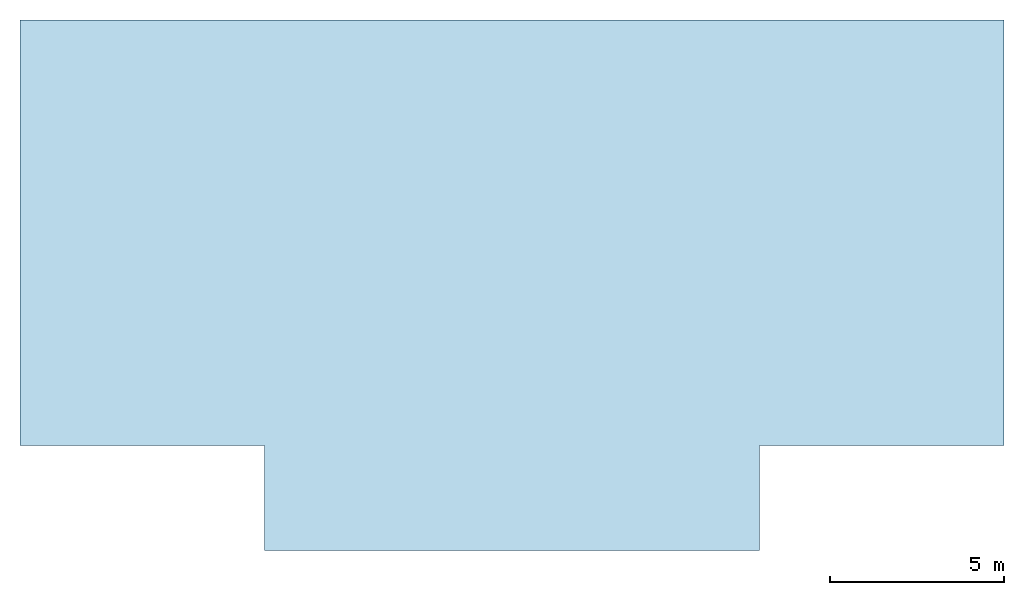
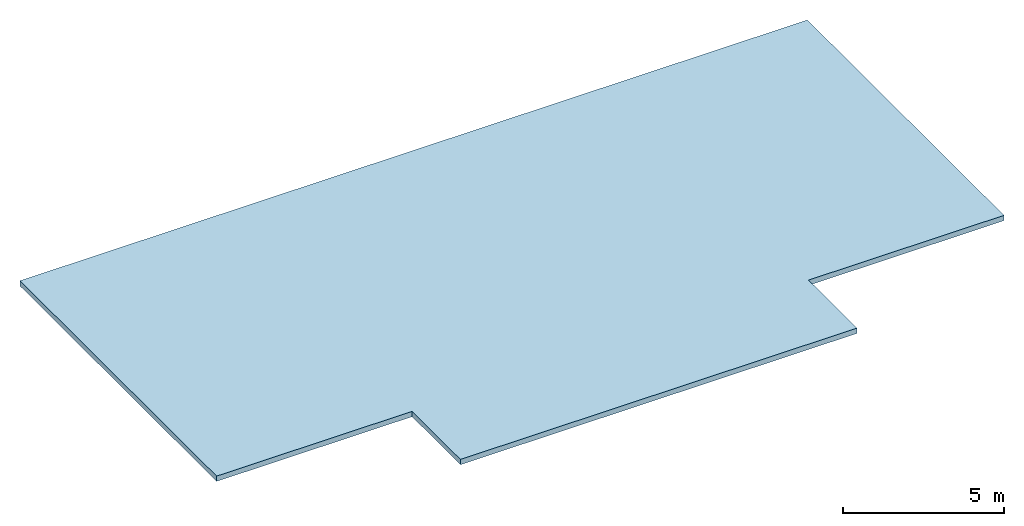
# One storey: 1 slab.
"""IFC2X3 building model written with IfcOpenShell, lengths in metres."""

import ifcopenshell
import ifcopenshell.guid

model = None  # the IFC model being written
_history = None  # IfcOwnerHistory: only IFC2X3 demands one
_inside = {}  # id of a spatial element -> (the spatial element, [elements in it])
_under = {}  # id of a project, library or spatial element -> (it, [spatial elements below it])
_declared = {}  # id of a project -> (the project, [libraries it declares])
_typed = {}  # id of a type object -> (the type object, [elements of that type])
_made_of = {}  # id of a material, layer set ... -> (it, [elements and type objects made of it])


def new_model(schema):
    """Start an empty IFC model of exactly this schema.

    Asked for "IFC4X3", IfcOpenShell would pick the latest addendum, in which some entities
    have other attributes; the version numbers below select the first issue.
    IFC2X3 requires an IfcOwnerHistory on every rooted entity: one is made here for all.
    """
    global model, _history
    if schema == "IFC4X3":
        model = ifcopenshell.file(schema_version=(4, 3, 0, 0))
    else:
        model = ifcopenshell.file(schema=schema)
    _inside.clear()
    _under.clear()
    _declared.clear()
    _typed.clear()
    _made_of.clear()
    _history = None
    if model.schema == "IFC2X3":
        org = make("IfcOrganization", Name="unknown")
        user = make(
            "IfcPersonAndOrganization",
            ThePerson=make("IfcPerson", FamilyName="unknown"),
            TheOrganization=org,
        )
        app = make(
            "IfcApplication",
            ApplicationDeveloper=org,
            Version="unknown",
            ApplicationFullName="unknown",
            ApplicationIdentifier="unknown",
        )
        _history = make(
            "IfcOwnerHistory",
            OwningUser=user,
            OwningApplication=app,
            ChangeAction="ADDED",
            CreationDate=0,
        )
    return model


def make(cls, **values):
    """One entity of the class cls with the attributes given. An attribute that is None is left unset."""
    return model.create_entity(
        cls, **{name: value for name, value in values.items() if value is not None}
    )


def entity(cls, *values):
    """Any entity or typed value of the class cls, its attributes in the order of the schema. None: left unset."""
    e = model.create_entity(cls)
    for i, value in enumerate(values):
        if value is not None:
            e[i] = value
    return e


def rooted(cls, **values):
    """An entity with a GlobalId (a new one), such as an element, a storey or a relation."""
    return make(cls, GlobalId=ifcopenshell.guid.new(), OwnerHistory=_history, **values)


def si_unit(unit_type, name, prefix=None):
    """IfcSIUnit, for example si_unit("LENGTHUNIT", "METRE", prefix="MILLI")."""
    return make("IfcSIUnit", UnitType=unit_type, Prefix=prefix, Name=name)


def converted_unit(unit_type, name, factor, base, dimensions=None, offset=None):
    """IfcConversionBasedUnit, such as the inch: factor (a typed value) times the base unit."""
    return make(
        "IfcConversionBasedUnit"
        if offset is None
        else "IfcConversionBasedUnitWithOffset",
        ConversionOffset=offset,
        Dimensions=None
        if dimensions is None
        else entity("IfcDimensionalExponents", *dimensions),
        UnitType=unit_type,
        Name=name,
        ConversionFactor=make(
            "IfcMeasureWithUnit", ValueComponent=factor, UnitComponent=base
        ),
    )


def derived_unit(unit_type, elements):
    """IfcDerivedUnit: a product of units, each with its exponent."""
    return make(
        "IfcDerivedUnit",
        Elements=[
            make("IfcDerivedUnitElement", Unit=unit, Exponent=power)
            for unit, power in elements
        ],
        UnitType=unit_type,
    )


def assignment(units):
    """IfcUnitAssignment: the units of a project."""
    return None if units is None else make("IfcUnitAssignment", Units=units)


def point(xyz):
    """IfcCartesianPoint."""
    return None if xyz is None else make("IfcCartesianPoint", Coordinates=xyz)


def direction(xyz):
    """IfcDirection."""
    return None if xyz is None else make("IfcDirection", DirectionRatios=xyz)


def frame(location, z_axis=None, x_axis=None):
    """IfcAxis2Placement3D, a coordinate frame: its origin and axes. An axis left out is left unset."""
    return make(
        "IfcAxis2Placement3D",
        Location=point(location),
        Axis=direction(z_axis),
        RefDirection=direction(x_axis),
    )


def origin():
    """The frame at (0, 0, 0) with its axes left unset."""
    return frame((0.0, 0.0, 0.0))


def place(relative_to, where):
    """IfcLocalPlacement: puts the frame where relative to a parent placement (None: the world)."""
    return make(
        "IfcLocalPlacement", PlacementRelTo=relative_to, RelativePlacement=where
    )


def context(
    kind, dimensions, precision=None, world=None, true_north=None, identifier=None
):
    """IfcGeometricRepresentationContext, for example the 3D "Model" context."""
    return make(
        "IfcGeometricRepresentationContext",
        ContextIdentifier=identifier,
        ContextType=kind,
        CoordinateSpaceDimension=dimensions,
        Precision=precision,
        WorldCoordinateSystem=world,
        TrueNorth=true_north,
    )


def subcontext(parent, identifier, kind, view, scale=None):
    """IfcGeometricRepresentationSubContext, for example "Body" below "Model"."""
    return make(
        "IfcGeometricRepresentationSubContext",
        ContextIdentifier=identifier,
        ContextType=kind,
        ParentContext=parent,
        TargetScale=scale,
        TargetView=view,
    )


def project(units=None, contexts=None):
    """IfcProject with its units and contexts."""
    return rooted(
        "IfcProject",
        Name="project",
        RepresentationContexts=contexts,
        UnitsInContext=assignment(units),
    )


def spatial(cls, under=None, at=None, **own):
    """A site, building, storey or space (cls), placed at a placement, below another one or the project."""
    s = rooted(cls, ObjectPlacement=at, **own)
    if under is not None:
        _under.setdefault(under.id(), (under, []))[1].append(s)
    return s


def polyline(points):
    """IfcPolyline through the points."""
    return make("IfcPolyline", Points=[point(p) for p in points])


def outline(outer, holes=None, kind="AREA"):
    """IfcArbitraryClosedProfileDef: a profile drawn as a closed curve; with holes, ...WithVoids."""
    if holes is None:
        return make("IfcArbitraryClosedProfileDef", ProfileType=kind, OuterCurve=outer)
    return make(
        "IfcArbitraryProfileDefWithVoids",
        ProfileType=kind,
        OuterCurve=outer,
        InnerCurves=holes,
    )


def extrude(swept, where, along, depth):
    """IfcExtrudedAreaSolid: the profile swept, set in the frame where, extruded along a direction by depth."""
    return make(
        "IfcExtrudedAreaSolid",
        SweptArea=swept,
        Position=where,
        ExtrudedDirection=direction(along),
        Depth=depth,
    )


def shape(context_of_items, identifier, shape_type, items):
    """IfcShapeRepresentation: the items that make up one representation, for example the "Body"."""
    return make(
        "IfcShapeRepresentation",
        ContextOfItems=context_of_items,
        RepresentationIdentifier=identifier,
        RepresentationType=shape_type,
        Items=items,
    )


def material(Name=None, Category=None):
    """IfcMaterial."""
    return make("IfcMaterial", Name=Name, Category=Category)


def layer(
    of_material, thickness, ventilated=None, Name=None, Category=None, Priority=None
):
    """IfcMaterialLayer: one layer of a wall or slab, of a material (None: an air gap)."""
    return make(
        "IfcMaterialLayer",
        Material=of_material,
        LayerThickness=thickness,
        IsVentilated=ventilated,
        Name=Name,
        Category=Category,
        Priority=Priority,
    )


def layer_set(layers, Name=None):
    """IfcMaterialLayerSet."""
    return make("IfcMaterialLayerSet", MaterialLayers=layers, LayerSetName=Name)


def layer_usage(for_layer_set, set_direction, sense, offset, extent=None):
    """IfcMaterialLayerSetUsage: how a layer set lies in its element."""
    return make(
        "IfcMaterialLayerSetUsage",
        ForLayerSet=for_layer_set,
        LayerSetDirection=set_direction,
        DirectionSense=sense,
        OffsetFromReferenceLine=offset,
        ReferenceExtent=extent,
    )


def made_of(thing, what):
    """Note that an element or type object is made of a material, layer set ...; save() writes the relation."""
    if what is not None:
        _made_of.setdefault(what.id(), (what, []))[1].append(thing)
    return thing


def element(
    cls,
    number,
    at=None,
    inside=None,
    cuts=None,
    type_object=None,
    material=None,
    context=None,
    identifier="Body",
    shape_type=None,
    held_by="IfcProductDefinitionShape",
    body=None,
    shapes=None,
    **own,
):
    """One element of the class cls, such as IfcWall. Its Tag is "e" and its number.

    at: its placement. inside: the storey or other place that contains it. cuts: it is an
    opening in that element (IfcRelVoidsElement). A single representation is given by context,
    identifier, shape_type and body (its items); several are given by shapes. held_by: the class
    of the entity that holds the representations. save() writes the other relations.
    """
    e = rooted(cls, Tag="e%d" % number, ObjectPlacement=at, **own)
    if body is not None:
        shapes = [shape(context, identifier, shape_type, body)]
    if shapes is not None:
        e.Representation = make(held_by, Representations=shapes)
    if inside is not None:
        _inside.setdefault(inside.id(), (inside, []))[1].append(e)
    if cuts is not None:
        rooted(
            "IfcRelVoidsElement", RelatingBuildingElement=cuts, RelatedOpeningElement=e
        )
    if type_object is not None:
        _typed.setdefault(type_object.id(), (type_object, []))[1].append(e)
    return made_of(e, material)


def aggregate(whole, parts):
    """IfcRelAggregates: a whole, such as a stair, and the parts it consists of."""
    return rooted("IfcRelAggregates", RelatingObject=whole, RelatedObjects=parts)


def save(model, path):
    """Write the relations noted so far, then the file.

    IfcRelAggregates (storeys below a building ...), IfcRelContainedInSpatialStructure (elements
    in a storey), IfcRelDefinesByType, IfcRelAssociatesMaterial and IfcRelDeclares: one each for
    every whole, place, type object, material and project.
    """
    for whole, parts in _under.values():
        aggregate(whole, parts)
    for where, things in _inside.values():
        rooted(
            "IfcRelContainedInSpatialStructure",
            RelatedElements=things,
            RelatingStructure=where,
        )
    for kind, things in _typed.values():
        rooted("IfcRelDefinesByType", RelatedObjects=things, RelatingType=kind)
    for what, things in _made_of.values():
        rooted("IfcRelAssociatesMaterial", RelatedObjects=things, RelatingMaterial=what)
    for by, libraries in _declared.values():
        rooted("IfcRelDeclares", RelatingContext=by, RelatedDefinitions=libraries)
    model.write(path)


model = new_model("IFC2X3")

# Units and contexts
model_context = context("Model", 3, precision=1e-05, world=origin(), true_north=direction((6.12303176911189e-17, 1.0)))
context_of_model = context(None, 3, precision=1e-05, world=origin(), true_north=direction((6.12303176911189e-17, 1.0)))
body_context = subcontext(model_context, "Body", "Model", "MODEL_VIEW")
ifc_project = project(units=[si_unit("LENGTHUNIT", "METRE"), si_unit("AREAUNIT", "SQUARE_METRE"), si_unit("VOLUMEUNIT", "CUBIC_METRE"), converted_unit("PLANEANGLEUNIT", "DEGREE", entity("IfcRatioMeasure", 0.0174532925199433), si_unit("PLANEANGLEUNIT", "RADIAN"), dimensions=[0, 0, 0, 0, 0, 0, 0]), si_unit("MASSUNIT", "GRAM", prefix="KILO"), derived_unit("MASSDENSITYUNIT", [(si_unit("MASSUNIT", "GRAM", prefix="KILO"), 1), (si_unit("LENGTHUNIT", "METRE"), -3)]), si_unit("TIMEUNIT", "SECOND"), si_unit("FREQUENCYUNIT", "HERTZ"), si_unit("THERMODYNAMICTEMPERATUREUNIT", "DEGREE_CELSIUS"), derived_unit("THERMALTRANSMITTANCEUNIT", [(si_unit("MASSUNIT", "GRAM", prefix="KILO"), 1), (si_unit("THERMODYNAMICTEMPERATUREUNIT", "KELVIN"), -1), (si_unit("TIMEUNIT", "SECOND"), -3)]), derived_unit("VOLUMETRICFLOWRATEUNIT", [(si_unit("LENGTHUNIT", "METRE"), 3), (si_unit("TIMEUNIT", "SECOND"), -1)]), si_unit("ELECTRICCURRENTUNIT", "AMPERE"), si_unit("ELECTRICVOLTAGEUNIT", "VOLT"), si_unit("POWERUNIT", "WATT"), si_unit("FORCEUNIT", "NEWTON"), si_unit("ILLUMINANCEUNIT", "LUX"), si_unit("LUMINOUSFLUXUNIT", "LUMEN"), si_unit("LUMINOUSINTENSITYUNIT", "CANDELA"), derived_unit("USERDEFINED", [(si_unit("MASSUNIT", "GRAM", prefix="KILO"), -1), (si_unit("LENGTHUNIT", "METRE"), -2), (si_unit("TIMEUNIT", "SECOND"), 3), (si_unit("LUMINOUSFLUXUNIT", "LUMEN"), 1)]), derived_unit("LINEARVELOCITYUNIT", [(si_unit("LENGTHUNIT", "METRE"), 1), (si_unit("TIMEUNIT", "SECOND"), -1)]), si_unit("PRESSUREUNIT", "PASCAL"), derived_unit("USERDEFINED", [(si_unit("LENGTHUNIT", "METRE"), -2), (si_unit("MASSUNIT", "GRAM", prefix="KILO"), 1), (si_unit("TIMEUNIT", "SECOND"), -2)])], contexts=[model_context, context_of_model])

# Site, building, storey
site_placement = place(None, origin())
site = spatial("IfcSite", under=ifc_project, at=site_placement, Name="Default", CompositionType="ELEMENT")
building_placement = place(site_placement, origin())
building = spatial("IfcBuilding", under=site, at=building_placement, CompositionType="ELEMENT")
storey_placement = place(building_placement, frame((0.0, 0.0, 18.0)))
storey = spatial("IfcBuildingStorey", under=building, at=storey_placement, Name="R+6", CompositionType="ELEMENT", Elevation=18.0)

# Slab
ifc_material = material(Name="Béton - Coulé sur place - Béton20")
ifc_layer = layer(ifc_material, 0.2)
ifc_layer_set = layer_set([ifc_layer], Name="Sol:Dalle pleine 200 mm")
ifc_layer_usage = layer_usage(ifc_layer_set, "AXIS3", "POSITIVE", 0.0)
slab_placement = place(storey_placement, origin())
element("IfcSlab", 1, at=slab_placement, inside=storey, material=ifc_layer_usage, Name="Sol:Dalle pleine 200 mm", ObjectType="Sol:Dalle pleine 200 mm", PredefinedType="FLOOR", context=body_context, shape_type="SweptSolid", body=[
    extrude(outline(polyline([(-2.29999999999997, -14.1), (9.90000000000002, -14.1), (9.89999999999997, 14.1), (-2.30000000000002, 14.1), (-2.30000000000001, 7.1), (-5.30000000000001, 7.1), (-5.29999999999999, -7.1), (-2.29999999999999, -7.1), (-2.29999999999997, -14.1)])), frame((1.79266399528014, -0.838189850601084, 0.2), z_axis=(0.0, 0.0, -1.0), x_axis=(0.0, 1.0, 0.0)), (0.0, 0.0, 1.0), 0.2),
])

save(model, "model.ifc")
